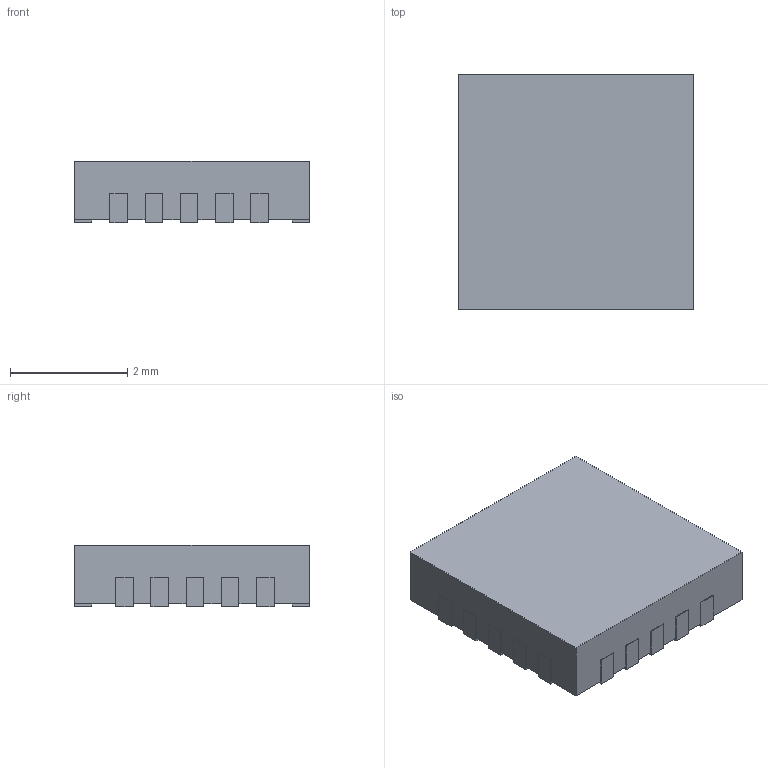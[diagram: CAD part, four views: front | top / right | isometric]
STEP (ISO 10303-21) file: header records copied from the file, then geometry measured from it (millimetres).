
FILE_DESCRIPTION(('FreeCAD Model'),'2;1');
FILE_NAME('Open CASCADE Shape Model','2021-06-28T20:00:28',('Author'),( ''),'Open CASCADE STEP processor 7.5','FreeCAD','Unknown');
FILE_SCHEMA(('AUTOMOTIVE_DESIGN { 1 0 10303 214 1 1 1 1 }'));
Length unit declared in the file: millimetre
Products named in the file (1): Group001
Bounding box: 4.02 x 4.02 x 1.05 mm (x, y, z)
Volume: 16.1 mm3; surface area: 49.5 mm2
Topology: 1 solids, 1 shells, 126 faces, 372 edges, 248 vertices
Faces by surface type: plane 126
Entity records: 8777 total; most frequent: CARTESIAN_POINT 1731, DIRECTION 1130, LINE 876, VECTOR 876, ORIENTED_EDGE 744, PCURVE 744, DEFINITIONAL_REPRESENTATION 744, EDGE_CURVE 372
